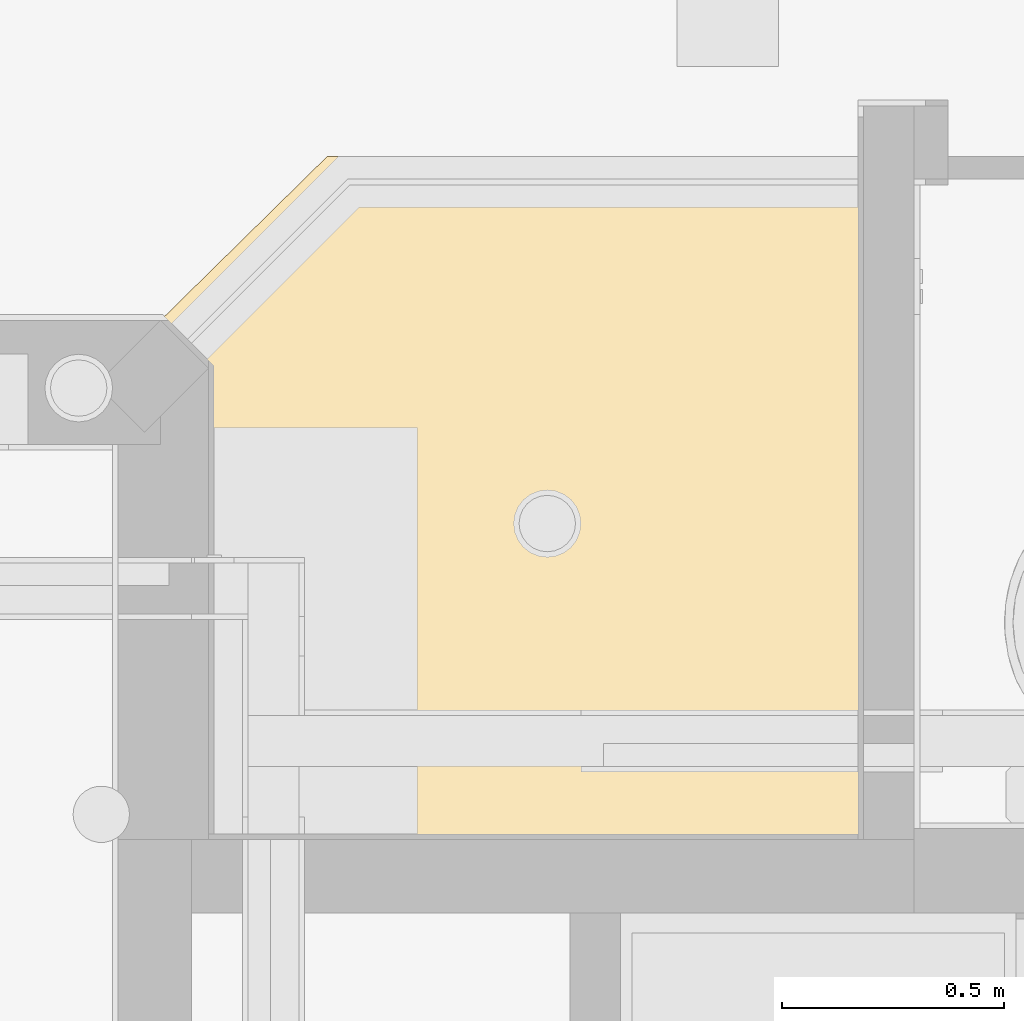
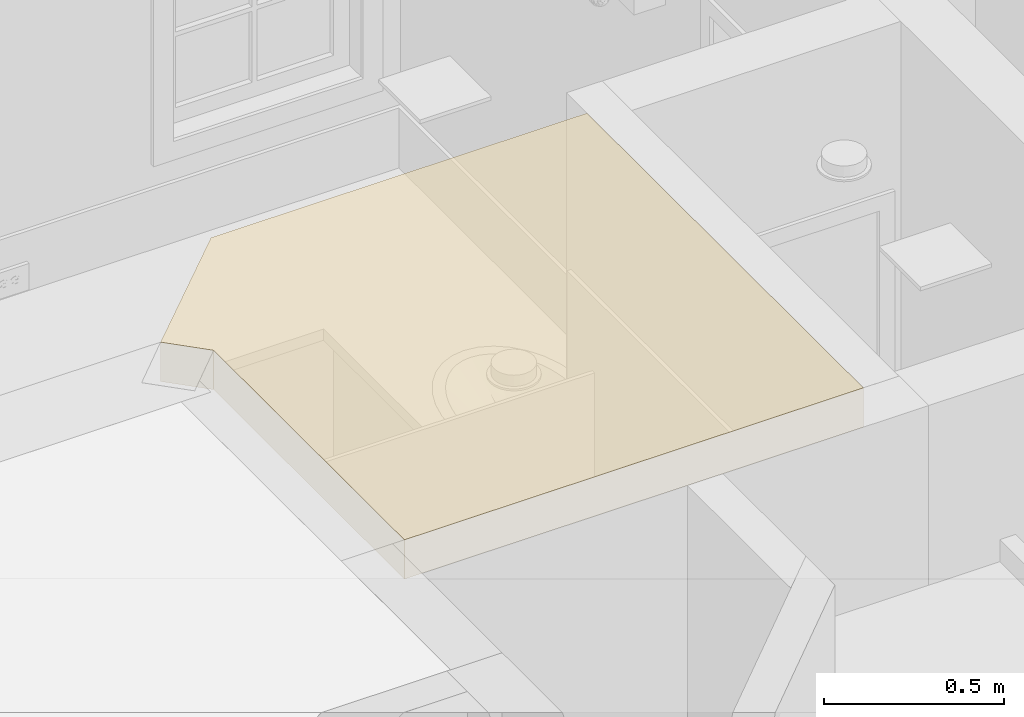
# One storey, part 36 of 81: 1 covering.
"""IFC2X3 building model written with IfcOpenShell, lengths in feet."""

from ifc_helpers import new_model, entity, si_unit, converted_unit, derived_unit, direction, frame, origin, place, context, subcontext, project, spatial, faceted_brep, material, layer, layer_set, layer_usage, type_object, element, save


model = new_model("IFC2X3")

# Units and contexts
model_context = context("Model", 3, precision=0.0001, world=origin(), true_north=direction((6.12303176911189e-17, 1.0)))
body_context = subcontext(model_context, "Body", "Model", "MODEL_VIEW")
ifc_project = project(units=[converted_unit("LENGTHUNIT", "FOOT", entity("IfcRatioMeasure", 0.3048), si_unit("LENGTHUNIT", "METRE"), dimensions=[1, 0, 0, 0, 0, 0, 0]), converted_unit("AREAUNIT", "SQUARE FOOT", entity("IfcRatioMeasure", 0.09290304), si_unit("AREAUNIT", "SQUARE_METRE"), dimensions=[2, 0, 0, 0, 0, 0, 0]), converted_unit("VOLUMEUNIT", "CUBIC FOOT", entity("IfcRatioMeasure", 0.028316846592), si_unit("VOLUMEUNIT", "CUBIC_METRE"), dimensions=[3, 0, 0, 0, 0, 0, 0]), converted_unit("PLANEANGLEUNIT", "DEGREE", entity("IfcRatioMeasure", 0.0174532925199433), si_unit("PLANEANGLEUNIT", "RADIAN"), dimensions=[0, 0, 0, 0, 0, 0, 0]), si_unit("MASSUNIT", "GRAM", prefix="KILO"), derived_unit("MASSDENSITYUNIT", [(si_unit("MASSUNIT", "GRAM", prefix="KILO"), 1), (si_unit("LENGTHUNIT", "METRE"), -3)]), derived_unit("MOMENTOFINERTIAUNIT", [(si_unit("LENGTHUNIT", "METRE"), 4)]), si_unit("TIMEUNIT", "SECOND"), si_unit("FREQUENCYUNIT", "HERTZ"), si_unit("THERMODYNAMICTEMPERATUREUNIT", "DEGREE_CELSIUS"), derived_unit("THERMALTRANSMITTANCEUNIT", [(si_unit("MASSUNIT", "GRAM", prefix="KILO"), 1), (si_unit("THERMODYNAMICTEMPERATUREUNIT", "KELVIN"), -1), (si_unit("TIMEUNIT", "SECOND"), -3)]), derived_unit("VOLUMETRICFLOWRATEUNIT", [(si_unit("LENGTHUNIT", "METRE"), 3), (si_unit("TIMEUNIT", "SECOND"), -1)]), si_unit("ELECTRICCURRENTUNIT", "AMPERE"), si_unit("ELECTRICVOLTAGEUNIT", "VOLT"), si_unit("POWERUNIT", "WATT"), si_unit("FORCEUNIT", "NEWTON"), si_unit("ILLUMINANCEUNIT", "LUX"), si_unit("LUMINOUSFLUXUNIT", "LUMEN"), si_unit("LUMINOUSINTENSITYUNIT", "CANDELA"), derived_unit("USERDEFINED", [(si_unit("MASSUNIT", "GRAM", prefix="KILO"), -1), (si_unit("LENGTHUNIT", "METRE"), -2), (si_unit("TIMEUNIT", "SECOND"), 3), (si_unit("LUMINOUSFLUXUNIT", "LUMEN"), 1)]), derived_unit("LINEARVELOCITYUNIT", [(si_unit("LENGTHUNIT", "METRE"), 1), (si_unit("TIMEUNIT", "SECOND"), -1)]), si_unit("PRESSUREUNIT", "PASCAL"), derived_unit("USERDEFINED", [(si_unit("LENGTHUNIT", "METRE"), -2), (si_unit("MASSUNIT", "GRAM", prefix="KILO"), 1), (si_unit("TIMEUNIT", "SECOND"), -2)]), derived_unit("LINEARFORCEUNIT", [(si_unit("MASSUNIT", "GRAM", prefix="KILO"), 1), (si_unit("LENGTHUNIT", "METRE"), 1), (si_unit("TIMEUNIT", "SECOND"), -2), (si_unit("LENGTHUNIT", "METRE"), -1)]), derived_unit("PLANARFORCEUNIT", [(si_unit("MASSUNIT", "GRAM", prefix="KILO"), 1), (si_unit("LENGTHUNIT", "METRE"), 1), (si_unit("TIMEUNIT", "SECOND"), -2), (si_unit("LENGTHUNIT", "METRE"), -2)])], contexts=[model_context])

# Site, building, storey
site_placement = place(None, origin())
site = spatial("IfcSite", under=ifc_project, at=site_placement, Name="Default", CompositionType="ELEMENT")
building_placement = place(site_placement, origin())
building = spatial("IfcBuilding", under=site, at=building_placement, CompositionType="ELEMENT")
storey_placement = place(building_placement, origin())
storey = spatial("IfcBuildingStorey", under=building, at=storey_placement, Name="First floor", CompositionType="ELEMENT", Elevation=0.0)

# Covering
ifc_material = material(Name="Default New Material")
ifc_layer = layer(ifc_material, 0.4375)
ifc_layer_set = layer_set([ifc_layer], Name="Compound Ceiling:Ceiling_5.25\"")
ifc_layer_usage = layer_usage(ifc_layer_set, "AXIS3", "POSITIVE", 0.0)
covering_type = type_object("IfcCoveringType", Name="Compound Ceiling:Ceiling_5.25\"", PredefinedType="CEILING")
covering_placement = place(storey_placement, frame((-0.979166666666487, 33.5000000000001, 20.2291666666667)))
element("IfcCovering", 1, at=covering_placement, inside=storey, type_object=covering_type, material=ifc_layer_usage, Name="Compound Ceiling:Ceiling_5.25\"", ObjectType="Compound Ceiling:Ceiling_5.25\"", PredefinedType="CEILING", context=body_context, shape_type="Brep", body=[
    faceted_brep([(0.35416666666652, 3.47916666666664, 0.4375), (0.354166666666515, 0.0, 0.4375), (5.1874999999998, 0.0, 0.4375), (5.18749999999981, 5.04166666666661, 0.4375), (1.22869107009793, 5.04166666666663, 0.4375), (0.0, 3.83333333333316, 0.4375), (5.1874999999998, 0.0, 0.0), (3.03458862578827, 2.22916666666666, 0.0), (3.05540121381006, 2.27941269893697, 0.0), (3.00148057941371, 2.18601942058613, 0.0), (3.06249999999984, 2.33333333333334, 0.0), (2.95833333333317, 2.15291137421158, 0.0), (2.90808730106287, 2.13209878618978, 0.0), (2.85416666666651, 2.125, 0.0), (0.354166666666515, 0.0, 0.0), (5.18749999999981, 5.04166666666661, 0.0), (2.80024603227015, 2.13209878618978, 0.0), (2.74999999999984, 2.15291137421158, 0.0), (2.70685275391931, 2.18601942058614, 0.0), (2.67374470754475, 2.22916666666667, 0.0), (2.65293211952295, 2.27941269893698, 0.0), (0.35416666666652, 3.47916666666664, 0.0), (2.64583333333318, 2.33333333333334, 0.0), (2.65293211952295, 2.38725396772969, 0.0), (2.67374470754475, 2.4375, 0.0), (2.70685275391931, 2.48064724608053, 0.0), (2.74999999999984, 2.51375529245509, 0.0), (1.22869107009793, 5.04166666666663, 0.0), (0.0, 3.83333333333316, 0.0), (2.90808730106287, 2.53456788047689, 0.0), (2.85416666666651, 2.54166666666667, 0.0), (2.80024603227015, 2.53456788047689, 0.0), (3.05540121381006, 2.3872539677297, 0.0), (3.03458862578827, 2.4375, 0.0), (3.00148057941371, 2.48064724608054, 0.0), (2.95833333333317, 2.51375529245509, 0.0), (2.95833333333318, 2.15291137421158, 0.125000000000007), (2.90808730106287, 2.13209878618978, 0.125000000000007), (2.85416666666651, 2.125, 0.125000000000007), (2.80024603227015, 2.13209878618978, 0.125000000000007), (2.74999999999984, 2.15291137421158, 0.125000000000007), (2.70685275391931, 2.18601942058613, 0.125000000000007), (2.67374470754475, 2.22916666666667, 0.125000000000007), (2.65293211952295, 2.27941269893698, 0.125000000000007), (2.64583333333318, 2.33333333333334, 0.125000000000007), (2.65293211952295, 2.38725396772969, 0.125000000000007), (2.67374470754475, 2.4375, 0.125000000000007), (2.70685275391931, 2.48064724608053, 0.125000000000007), (2.74999999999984, 2.51375529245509, 0.125000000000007), (2.80024603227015, 2.53456788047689, 0.125000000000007), (2.85416666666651, 2.54166666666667, 0.125000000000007), (2.90808730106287, 2.53456788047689, 0.125000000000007), (2.95833333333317, 2.51375529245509, 0.125000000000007), (3.00148057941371, 2.48064724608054, 0.125000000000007), (3.03458862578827, 2.4375, 0.125000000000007), (3.05540121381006, 2.3872539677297, 0.125000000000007), (3.06249999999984, 2.33333333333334, 0.125000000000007), (3.05540121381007, 2.27941269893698, 0.125000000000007), (3.03458862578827, 2.22916666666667, 0.125000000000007), (3.00148057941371, 2.18601942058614, 0.125000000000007)], [[[0, 1, 2, 3, 4, 5]], [[6, 7, 8]], [[7, 6, 9]], [[6, 8, 10]], [[11, 9, 6]], [[12, 11, 6]], [[13, 12, 6]], [[6, 14, 13]], [[10, 15, 6]], [[16, 13, 14]], [[17, 16, 14]], [[18, 17, 14]], [[14, 19, 18]], [[19, 14, 20]], [[20, 14, 21]], [[21, 22, 20]], [[21, 23, 22]], [[21, 24, 23]], [[25, 24, 21]], [[25, 21, 26]], [[21, 27, 26]], [[28, 27, 21]], [[15, 29, 27]], [[27, 29, 30]], [[31, 26, 27]], [[31, 27, 30]], [[10, 32, 15]], [[33, 15, 32]], [[15, 33, 34]], [[34, 35, 15]], [[35, 29, 15]], [[2, 1, 14, 6]], [[3, 2, 6, 15]], [[4, 3, 15, 27]], [[5, 4, 27, 28]], [[0, 5, 28, 21]], [[1, 0, 21, 14]], [[36, 37, 38, 39, 40, 41, 42, 43, 44, 45, 46, 47, 48, 49, 50, 51, 52, 53, 54, 55, 56, 57, 58, 59]], [[44, 22, 23, 45]], [[45, 23, 24, 46]], [[48, 47, 25, 26]], [[25, 47, 46, 24]], [[49, 48, 26, 31]], [[49, 31, 30, 50]], [[50, 30, 29, 51]], [[51, 29, 35, 52]], [[34, 53, 52, 35]], [[33, 54, 53, 34]], [[33, 32, 55, 54]], [[10, 56, 55, 32]], [[56, 10, 8, 57]], [[57, 8, 7, 58]], [[36, 59, 9, 11]], [[9, 59, 58, 7]], [[37, 36, 11, 12]], [[37, 12, 13, 38]], [[16, 39, 38, 13]], [[43, 42, 19, 20]], [[41, 18, 19, 42]], [[43, 20, 22, 44]], [[17, 40, 39, 16]], [[17, 18, 41, 40]]]),
])

save(model, "model.ifc")
